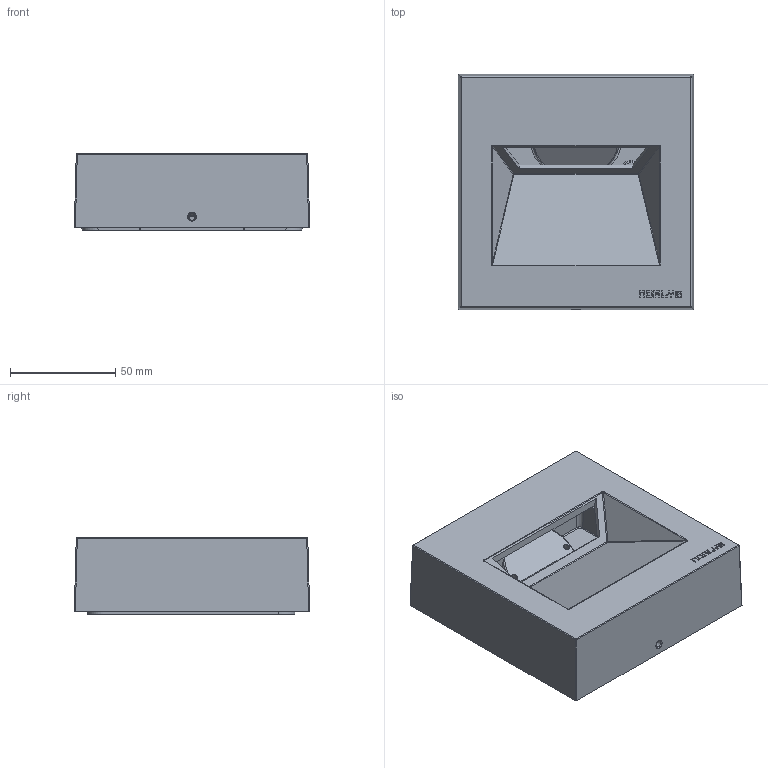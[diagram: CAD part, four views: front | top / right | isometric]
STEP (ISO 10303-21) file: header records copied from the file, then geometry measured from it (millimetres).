
FILE_DESCRIPTION (( 'STEP AP203' ), '1' );
FILE_NAME ('NAMSOS WALL 1341XX0009.STEP', '2020-03-24T10:25:29', ( '' ), ( '' ), 'SwSTEP 2.0', 'SolidWorks 2019', '' );
FILE_SCHEMA (( 'CONFIG_CONTROL_DESIGN' ));
Length unit declared in the file: millimetre
Products named in the file (5): M151W2_Korpus_rs_W6 obr; M151W2_Pokr zew_rs_W6 obr Lum EDC 38 4W; M151_Pokr zew kpl_rs_M151 W3 Lum EDC 38 4W; M151W2_Korpus kpl_rs_W7; NAMSOS WALL 1341XX0009
Assembly tree (4 placements, depth 3):
  NAMSOS WALL 1341XX0009
    M151W2_Korpus kpl_rs_W7
      M151W2_Korpus_rs_W6 obr
    M151_Pokr zew kpl_rs_M151 W3 Lum EDC 38 4W
      M151W2_Pokr zew_rs_W6 obr Lum EDC 38 4W
Bounding box: 111.83 x 111.83 x 36.5 mm (x, y, z)
Volume: 154510.6 mm3; surface area: 101305.6 mm2
Topology: 2 solids, 2 shells, 745 faces, 1817 edges, 1075 vertices
Faces by surface type: plane 194, cylinder 163, bspline 151, cone 107, torus 94, sphere 36
Entity records: 27464 total; most frequent: CARTESIAN_POINT 10677, ORIENTED_EDGE 3582, DIRECTION 3255, EDGE_CURVE 1791, AXIS2_PLACEMENT_3D 1257, VERTEX_POINT 1075, EDGE_LOOP 782, FACE_OUTER_BOUND 745
